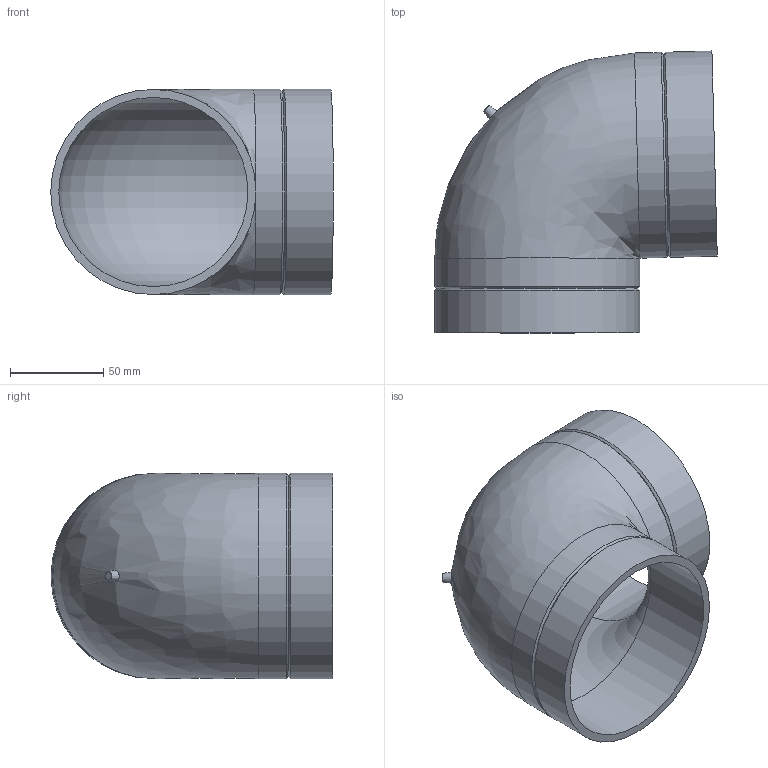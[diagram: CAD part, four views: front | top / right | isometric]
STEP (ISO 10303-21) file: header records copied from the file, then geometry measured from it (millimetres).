
FILE_DESCRIPTION(/* description */ (''),/* implementation_level */ '2;1');
FILE_NAME(/* name */ 'Z:\Geberit\Export\NewStep\367088.stp',/* time_stamp */ '2014-04-02T07:55:33+02:00',/* author */ ('nelson'),/* organization */ (''),/* preprocessor_version */ 'ST-DEVELOPER v15.2',/* originating_system */ 'Autodesk Inventor 2014',/* authorisation */ '');
FILE_SCHEMA (('AUTOMOTIVE_DESIGN { 1 0 10303 214 3 1 1 }'));
Length unit declared in the file: millimetre
Products named in the file (1): 367088
Bounding box: 151.44 x 151.07 x 110 mm (x, y, z)
Volume: 238477.5 mm3; surface area: 114141 mm2
Topology: 1 solids, 1 shells, 16 faces, 34 edges, 19 vertices
Faces by surface type: cylinder 6, cone 5, plane 3, torus 1, bspline 1
Full cylindrical faces by diameter (mm): 101.4 x2, 110 x4
Entity records: 459 total; most frequent: CARTESIAN_POINT 169, DIRECTION 62, ORIENTED_EDGE 32, EDGE_LOOP 31, AXIS2_PLACEMENT_3D 31, FACE_BOUND 18, EDGE_CURVE 16, ADVANCED_FACE 16
